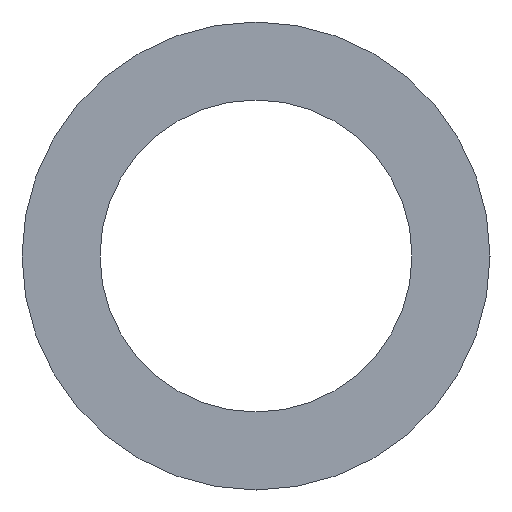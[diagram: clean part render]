
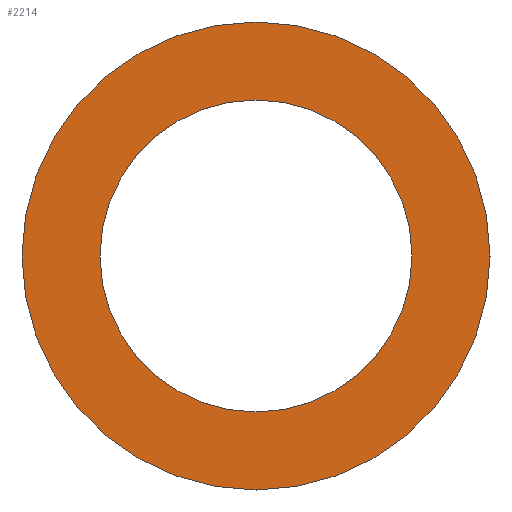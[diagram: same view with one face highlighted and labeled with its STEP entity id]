
A CAD part, front view. The second image highlights one B-rep face of the part: STEP entity #2214.
In plain terms, the highlighted planar face has unit normal (0, -1, 0).
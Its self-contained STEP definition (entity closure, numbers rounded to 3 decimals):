
#32 = CIRCLE ( 'NONE', #1791, 40. ) ;
#57 = VERTEX_POINT ( 'NONE', #3592 ) ;
#216 = EDGE_CURVE ( 'NONE', #2865, #3493, #32, .T. ) ;
#280 = EDGE_LOOP ( 'NONE', ( #3534, #1101 ) ) ;
#328 = CARTESIAN_POINT ( 'NONE',  ( 0., -20., 0. ) ) ;
#483 = CARTESIAN_POINT ( 'NONE',  ( 0., -20., 0. ) ) ;
#520 = DIRECTION ( 'NONE',  ( 0., 0., -1. ) ) ;
#564 = CIRCLE ( 'NONE', #1284, 60. ) ;
#770 = EDGE_CURVE ( 'NONE', #57, #1320, #2522, .T. ) ;
#878 = DIRECTION ( 'NONE',  ( 0., -1., 0. ) ) ;
#1101 = ORIENTED_EDGE ( 'NONE', *, *, #770, .T. ) ;
#1201 = DIRECTION ( 'NONE',  ( 0., 0., -1. ) ) ;
#1270 = ORIENTED_EDGE ( 'NONE', *, *, #3319, .F. ) ;
#1284 = AXIS2_PLACEMENT_3D ( 'NONE', #1649, #3391, #3651 ) ;
#1320 = VERTEX_POINT ( 'NONE', #1344 ) ;
#1330 = AXIS2_PLACEMENT_3D ( 'NONE', #483, #3676, #1666 ) ;
#1344 = CARTESIAN_POINT ( 'NONE',  ( 0., -20., -60. ) ) ;
#1546 = CARTESIAN_POINT ( 'NONE',  ( 0., -20., 40. ) ) ;
#1632 = PLANE ( 'NONE',  #3478 ) ;
#1649 = CARTESIAN_POINT ( 'NONE',  ( 0., -20., 0. ) ) ;
#1666 = DIRECTION ( 'NONE',  ( 0., 0., -1. ) ) ;
#1791 = AXIS2_PLACEMENT_3D ( 'NONE', #2535, #3070, #520 ) ;
#1864 = FACE_BOUND ( 'NONE', #2523, .T. ) ;
#1952 = FACE_OUTER_BOUND ( 'NONE', #280, .T. ) ;
#2214 = ADVANCED_FACE ( 'NONE', ( #1864, #1952 ), #1632, .F. ) ;
#2456 = AXIS2_PLACEMENT_3D ( 'NONE', #328, #878, #1201 ) ;
#2491 = DIRECTION ( 'NONE',  ( 0., 0., 1. ) ) ;
#2520 = DIRECTION ( 'NONE',  ( 0., 1., 0. ) ) ;
#2522 = CIRCLE ( 'NONE', #1330, 60. ) ;
#2523 = EDGE_LOOP ( 'NONE', ( #3122, #1270 ) ) ;
#2535 = CARTESIAN_POINT ( 'NONE',  ( 0., -20., 0. ) ) ;
#2865 = VERTEX_POINT ( 'NONE', #3240 ) ;
#3070 = DIRECTION ( 'NONE',  ( 0., -1., 0. ) ) ;
#3122 = ORIENTED_EDGE ( 'NONE', *, *, #216, .F. ) ;
#3240 = CARTESIAN_POINT ( 'NONE',  ( 0., -20., -40. ) ) ;
#3319 = EDGE_CURVE ( 'NONE', #3493, #2865, #3437, .T. ) ;
#3391 = DIRECTION ( 'NONE',  ( 0., -1., 0. ) ) ;
#3437 = CIRCLE ( 'NONE', #2456, 40. ) ;
#3478 = AXIS2_PLACEMENT_3D ( 'NONE', #3645, #2520, #2491 ) ;
#3493 = VERTEX_POINT ( 'NONE', #1546 ) ;
#3534 = ORIENTED_EDGE ( 'NONE', *, *, #3710, .T. ) ;
#3592 = CARTESIAN_POINT ( 'NONE',  ( 0., -20., 60. ) ) ;
#3645 = CARTESIAN_POINT ( 'NONE',  ( 0., -20., 40. ) ) ;
#3651 = DIRECTION ( 'NONE',  ( 0., 0., -1. ) ) ;
#3676 = DIRECTION ( 'NONE',  ( 0., -1., 0. ) ) ;
#3710 = EDGE_CURVE ( 'NONE', #1320, #57, #564, .T. ) ;
